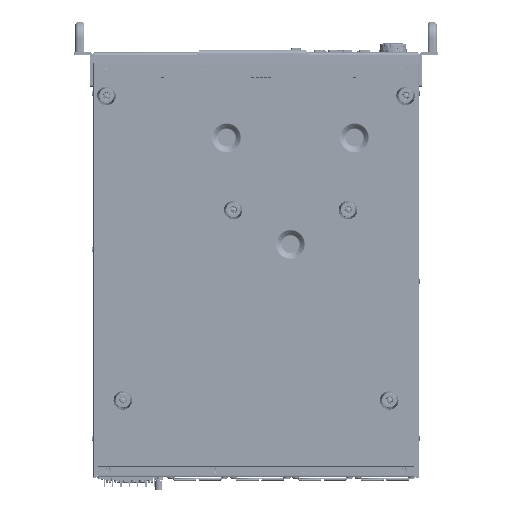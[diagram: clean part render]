
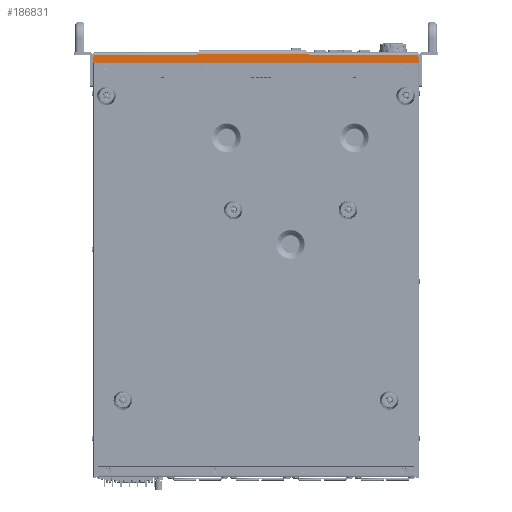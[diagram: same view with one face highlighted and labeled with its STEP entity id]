
A CAD part, front view. The second image highlights one B-rep face of the part: STEP entity #186831.
In plain terms, the highlighted planar face has unit normal (0, -0.999, 0.035).
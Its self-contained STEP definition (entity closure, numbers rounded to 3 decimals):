
#162932=CARTESIAN_POINT('',(-214.,0.,-17.2));
#162938=DIRECTION('',(1.,0.,0.));
#162939=VECTOR('',#162938,428.);
#162940=CARTESIAN_POINT('',(-214.,0.,-17.2));
#162941=LINE('',#162940,#162939);
#162946=CARTESIAN_POINT('',(214.,0.,-17.2));
#164349=DIRECTION('',(0.07,-0.035,-0.997));
#164350=VECTOR('',#164349,10.371);
#164351=CARTESIAN_POINT('',(213.277,0.361,
-6.86));
#164352=LINE('',#164351,#164350);
#164353=DIRECTION('',(0.07,0.035,0.997));
#164354=VECTOR('',#164353,10.371);
#164355=CARTESIAN_POINT('',(-214.,0.,-17.2));
#164356=LINE('',#164355,#164354);
#164357=DIRECTION('',(1.,0.,0.));
#164358=VECTOR('',#164357,135.316);
#164359=CARTESIAN_POINT('',(-213.277,0.361,
-6.86));
#164360=LINE('',#164359,#164358);
#164361=DIRECTION('',(1.,0.,0.));
#164362=VECTOR('',#164361,145.572);
#164363=CARTESIAN_POINT('',(-76.786,0.432,
-4.826));
#164364=LINE('',#164363,#164362);
#164365=DIRECTION('',(1.,0.,0.));
#164366=VECTOR('',#164365,143.316);
#164367=CARTESIAN_POINT('',(69.961,0.361,
-6.86));
#164368=LINE('',#164367,#164366);
#168602=CARTESIAN_POINT('',(-76.786,0.432,
-4.826));
#168610=DIRECTION('',(0.5,0.03,0.866));
#168611=VECTOR('',#168610,2.351);
#168612=CARTESIAN_POINT('',(-77.961,0.361,
-6.86));
#168613=LINE('',#168612,#168611);
#168692=CARTESIAN_POINT('',(-213.277,0.361,
-6.86));
#168709=DIRECTION('',(-0.5,0.03,0.866));
#168710=VECTOR('',#168709,2.351);
#168711=CARTESIAN_POINT('',(69.961,0.361,
-6.86));
#168712=LINE('',#168711,#168710);
#168719=CARTESIAN_POINT('',(68.786,0.432,
-4.826));
#181166=VERTEX_POINT('',#168719);
#181167=CARTESIAN_POINT('',(69.961,0.361,
-6.86));
#181168=VERTEX_POINT('',#181167);
#181173=VERTEX_POINT('',#168602);
#181175=CARTESIAN_POINT('',(-77.961,0.361,
-6.86));
#181176=VERTEX_POINT('',#181175);
#181479=VERTEX_POINT('',#162946);
#181480=CARTESIAN_POINT('',(213.277,0.361,
-6.86));
#181481=VERTEX_POINT('',#181480);
#181498=VERTEX_POINT('',#168692);
#181500=VERTEX_POINT('',#162932);
#186810=CARTESIAN_POINT('',(-220.391,0.,-17.2));
#186811=DIRECTION('',(0.,-0.999,0.035));
#186812=DIRECTION('',(1.,0.,0.));
#186813=AXIS2_PLACEMENT_3D('',#186810,#186811,#186812);
#186814=PLANE('',#186813);
#186815=ORIENTED_EDGE('',*,*,#186802,.T.);
#186816=ORIENTED_EDGE('',*,*,#185527,.F.);
#186818=ORIENTED_EDGE('',*,*,#186817,.T.);
#186820=ORIENTED_EDGE('',*,*,#186819,.T.);
#186822=ORIENTED_EDGE('',*,*,#186821,.T.);
#186824=ORIENTED_EDGE('',*,*,#186823,.T.);
#186826=ORIENTED_EDGE('',*,*,#186825,.F.);
#186828=ORIENTED_EDGE('',*,*,#186827,.T.);
#186829=EDGE_LOOP('',(#186815,#186816,#186818,#186820,#186822,#186824,#186826,
#186828));
#186830=FACE_OUTER_BOUND('',#186829,.F.);
#186831=ADVANCED_FACE('',(#186830),#186814,.T.);
#185527=EDGE_CURVE('',#181500,#181479,#162941,.T.);
#186802=EDGE_CURVE('',#181481,#181479,#164352,.T.);
#186817=EDGE_CURVE('',#181500,#181498,#164356,.T.);
#186819=EDGE_CURVE('',#181498,#181176,#164360,.T.);
#186821=EDGE_CURVE('',#181176,#181173,#168613,.T.);
#186823=EDGE_CURVE('',#181173,#181166,#164364,.T.);
#186825=EDGE_CURVE('',#181168,#181166,#168712,.T.);
#186827=EDGE_CURVE('',#181168,#181481,#164368,.T.);
